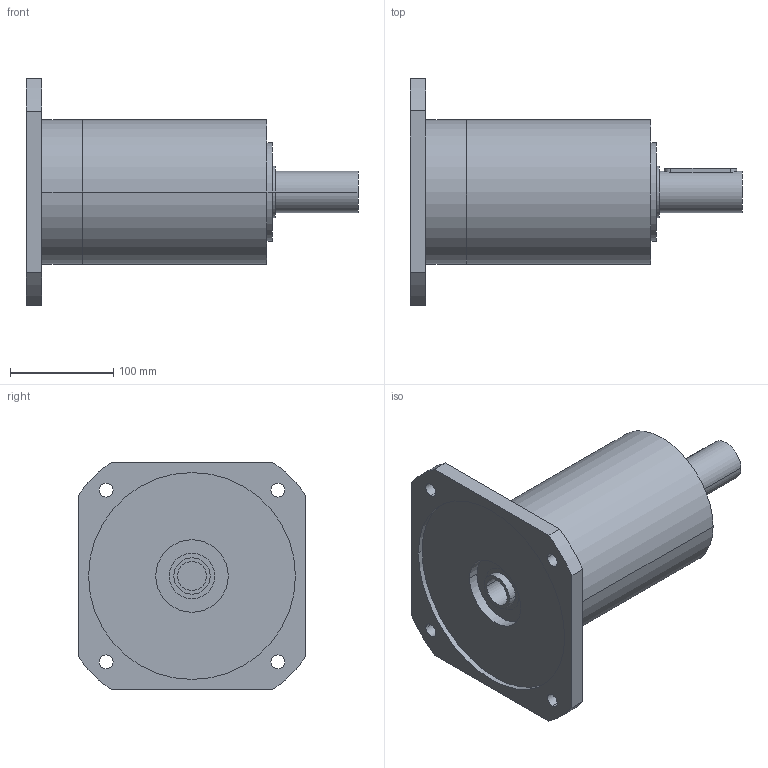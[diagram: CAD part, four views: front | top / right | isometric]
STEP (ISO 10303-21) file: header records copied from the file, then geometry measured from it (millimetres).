
FILE_DESCRIPTION(('CoCreate Modeling STEP Export'),'2;1');
FILE_NAME('GPR150_ig-9-12-16-20-28-35_40_B14_28_P12.stp','2014-08-19T17:03:51',(''),(''),'CoCreate Modeling STEP processor for AP214 (Solid Model)','CoCreate Modeling 16.00C 25-Feb-2009 (C) Parametric Technology GmbH','');
FILE_SCHEMA(('AUTOMOTIVE_DESIGN { 1 0 10303 214 1 1 1 1 }'));
Length unit declared in the file: millimetre
Products named in the file (2): GPR150_ig-9-12-16-20-28-35_40_B14_28_P12
Assembly tree (1 placements, depth 2):
  GPR150_ig-9-12-16-20-28-35_40_B14_28_P12
    GPR150_ig-9-12-16-20-28-35_40_B14_28_P12
Bounding box: 321 x 220 x 220 mm (x, y, z)
Volume: 3941222.2 mm3; surface area: 233590.4 mm2
Topology: 1 solids, 1 shells, 73 faces, 195 edges, 137 vertices
Faces by surface type: cylinder 44, plane 23, cone 6
Entity records: 2033 total; most frequent: CARTESIAN_POINT 395, ORIENTED_EDGE 386, DIRECTION 272, EDGE_CURVE 193, VERTEX_POINT 137, AXIS2_PLACEMENT_3D 102, EDGE_LOOP 96, FACE_OUTER_BOUND 73
